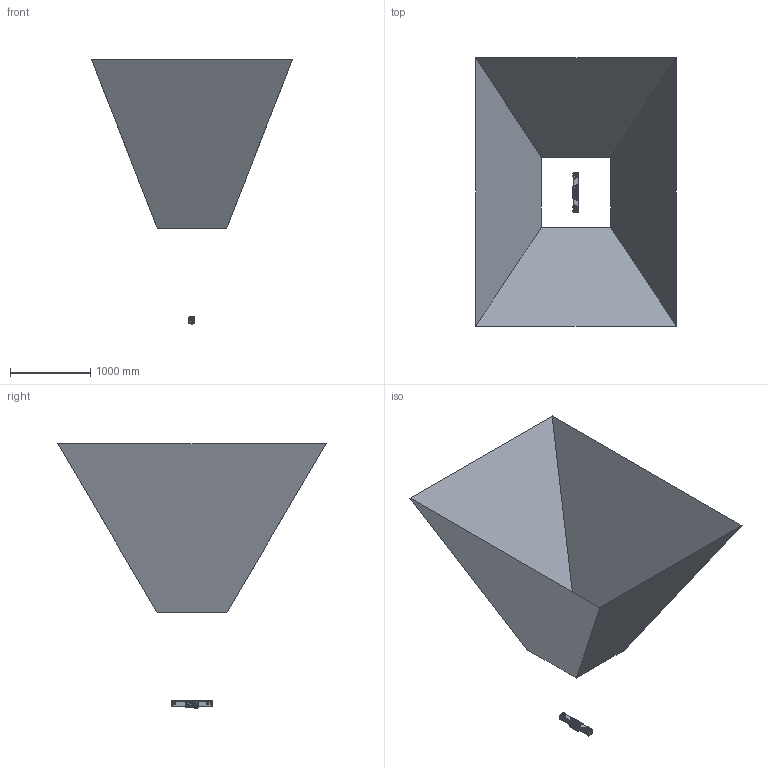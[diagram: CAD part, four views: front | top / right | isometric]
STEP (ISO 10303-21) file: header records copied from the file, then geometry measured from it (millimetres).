
FILE_DESCRIPTION((''),'2;1');
FILE_NAME('00-DB1300A-V2-WK_SW0001','2025-08-08T15:34:31',('zhujiahao9'),(''),'CREO PARAMETRIC BY PTC INC, 2020044','CREO PARAMETRIC BY PTC INC, 2020044','');
FILE_SCHEMA(('CONFIG_CONTROL_DESIGN'));
Length unit declared in the file: millimetre
Products named in the file (1): 00-DB1300A-V2-WK_SW0001
Bounding box: 2500 x 3340 x 3295.9 mm (x, y, z)
Surface area: 17862105.3 mm2 (no closed solid volume)
Topology: 0 solids, 186 shells, 430 faces, 3461 edges, 3197 vertices
Faces by surface type: plane 315, cylinder 62, extrusion 16, bspline 16, torus 14, cone 7
Entity records: 37931 total; most frequent: CARTESIAN_POINT 12865, DIRECTION 5391, ORIENTED_EDGE 3855, EDGE_CURVE 3461, VERTEX_POINT 3197, VECTOR 1885, LINE 1869, AXIS2_PLACEMENT_3D 1753
